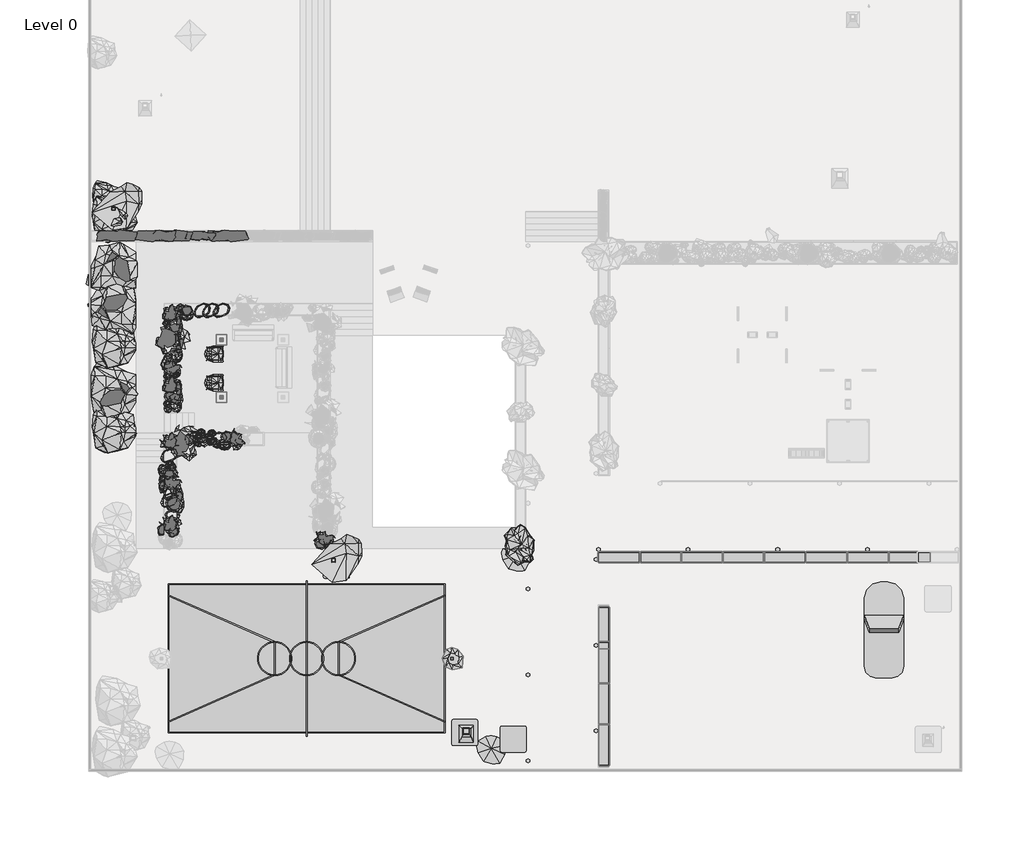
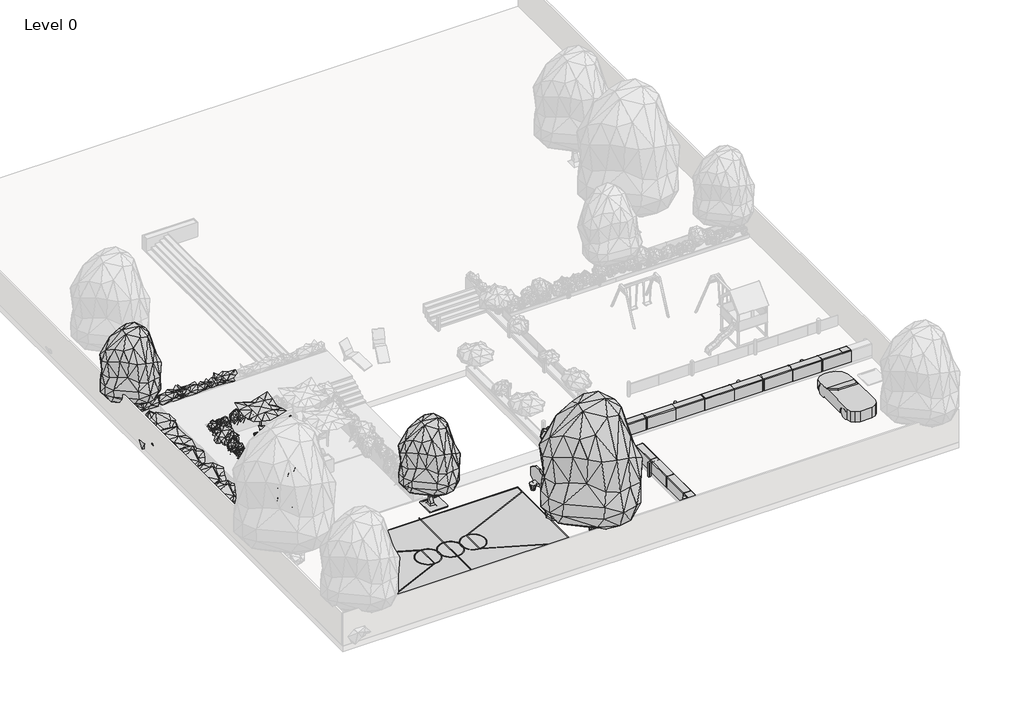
# One storey, part 2 of 4: 115 geographic elements.
"""IFC4 building model written with IfcOpenShell, lengths in millimetres."""

from ifc_helpers import new_model, si_unit, origin, place, context, project, spatial, transform, mapped, element, save
from components import geographic_element_18a1116b, geographic_element_f069a1d7, geographic_element_9647795e, geographic_element_b0e9a4e7, geographic_element_ddb3373a, geographic_element_6e40b6ea, geographic_element_a5b1a6e7, geographic_element_4fbb4c08, geographic_element_7a93afb1, geographic_element_6c98dd67, geographic_element_ee225f17, geographic_element_5fc5a5dc, geographic_element_9e3005e0, geographic_element_3e6169c2, geographic_element_002eea6f, geographic_element_27884fb9, geographic_element_71cebea8, geographic_element_228c287f, geographic_element_fedf1de8, geographic_element_c9fdac9c, geographic_element_cc1a56ab, geographic_element_63926694, geographic_element_56f19f58, geographic_element_ddda1ed9, geographic_element_a5f2ebed, basketball_m_26000_x_14000_mm_2_9674ccca, enscape_assetdefinition_armchair_052_outdoor_enscape_f294b56b, enscape_assetdefinition_basketball_hoop_001_enscape_23c26aad, enscape_assetdefinition_bush_025_fern_enscape_ed9dc602, enscape_assetdefinition_bush_025_fern_enscape_5cccd865, enscape_assetdefinition_bush_025_fern_enscape_c4f5b710, enscape_assetdefinition_bush_030_grass_enscape_cd22858d, enscape_assetdefinition_bush_031_grass_enscape_dda4791a, enscape_assetdefinition_car_016_enscape_assetdefinition_car_c40bcaf4

model = new_model("IFC4")

# Units and contexts
model_context = context("Model", 3, world=origin())
ifc_project = project(units=[si_unit("LENGTHUNIT", "METRE", prefix="MILLI")], contexts=[model_context])

# Site, building, storey
site = spatial("IfcSite", under=ifc_project)
building = spatial("IfcBuilding", under=site)
storey = spatial("IfcBuildingStorey", under=building, Name="Level 0", Elevation=0.0)

# Geographic elements
placement = place(None, origin())
geographic_element_shape = geographic_element_18a1116b(model_context)
element("IfcGeographicElement", 1, ObjectType="Enscape AssetDefinition - Sunshade 002 : Enscape AssetDefinition - Sunshade 002", at=placement, inside=storey, context=model_context, shape_type="MappedRepresentation", body=[
    mapped(geographic_element_shape, transform((-957.3193728, -6858.2564752, 100.0), x_axis=(1.0, 0.0, 0.0), y_axis=(0.0, 1.0, 0.0), z_axis=(0.0, 0.0, 1.0))),
])
element("IfcGeographicElement", 2, ObjectType="Enscape AssetDefinition - Sunshade 002 : Enscape AssetDefinition - Sunshade 002", at=placement, inside=storey, context=model_context, shape_type="MappedRepresentation", body=[
    mapped(geographic_element_shape, transform((-957.3193728, -9558.2564752, 100.0), x_axis=(1.0, 0.0, 0.0), y_axis=(0.0, 1.0, 0.0), z_axis=(0.0, 0.0, 1.0))),
])
geographic_element_2_shape = geographic_element_f069a1d7(model_context)
element("IfcGeographicElement", 3, ObjectType="Enscape AssetDefinition - Creeper Plant 016 Bower Vine : Enscape AssetDefinition - Creeper Plant 016 Bower Vine", at=placement, inside=storey, context=model_context, shape_type="MappedRepresentation", body=[
    mapped(geographic_element_2_shape, transform((-3106.8662216, -9938.4130328, 950.0), x_axis=(0.0, 1.0, 0.0), y_axis=(-1.0, 0.0, 0.0), z_axis=(0.0, 0.0, 1.0))),
])
element("IfcGeographicElement", 4, ObjectType="Enscape AssetDefinition - Creeper Plant 016 Bower Vine : Enscape AssetDefinition - Creeper Plant 016 Bower Vine", at=placement, inside=storey, context=model_context, shape_type="MappedRepresentation", body=[
    mapped(geographic_element_2_shape, transform((-3656.8662216, -13041.7630328, 950.0), x_axis=(0.0, -1.0, 0.0), y_axis=(1.0, 0.0, 0.0), z_axis=(0.0, 0.0, 1.0))),
])
geographic_element_3_shape = geographic_element_9647795e(model_context)
element("IfcGeographicElement", 5, ObjectType="Enscape AssetDefinition - Creeper Plant 001 Bower Vine : Enscape AssetDefinition - Creeper Plant 001 Bower Vine", at=placement, inside=storey, context=model_context, shape_type="MappedRepresentation", body=[
    mapped(geographic_element_3_shape, transform((-3606.8662216, -13460.9795349, 950.0), x_axis=(0.0, -1.0, 0.0), y_axis=(1.0, 0.0, 0.0), z_axis=(0.0, 0.0, 1.0))),
])
element("IfcGeographicElement", 6, ObjectType="Enscape AssetDefinition - Creeper Plant 001 Bower Vine : Enscape AssetDefinition - Creeper Plant 001 Bower Vine", at=placement, inside=storey, context=model_context, shape_type="MappedRepresentation", body=[
    mapped(geographic_element_3_shape, transform((-3106.8662216, -6858.2564752, 950.0), x_axis=(0.0, 1.0, 0.0), y_axis=(-1.0, 0.0, 0.0), z_axis=(0.0, 0.0, 1.0))),
])
geographic_element_4_shape = geographic_element_b0e9a4e7(model_context)
element("IfcGeographicElement", 7, ObjectType="Enscape AssetDefinition - Creeper Plant 016 Bower Vine : Enscape AssetDefinition - Creeper Plant 016 Bower Vine 2", at=placement, inside=storey, context=model_context, shape_type="MappedRepresentation", body=[
    mapped(geographic_element_4_shape, transform((-3106.8662216, -14538.4130328, 950.0), x_axis=(0.0, 1.0, 0.0), y_axis=(-1.0, 0.0, 0.0), z_axis=(0.0, 0.0, 1.0))),
])
geographic_element_5_shape = geographic_element_ddb3373a(model_context)
element("IfcGeographicElement", 8, ObjectType="Enscape AssetDefinition - Creeper Plant 016 Bower Vine : Enscape AssetDefinition - Creeper Plant 016 Bower Vine 3", at=placement, inside=storey, context=model_context, shape_type="MappedRepresentation", body=[
    mapped(geographic_element_5_shape, transform((-3106.8662216, -6258.2564752, 950.0), x_axis=(0.0, 1.0, 0.0), y_axis=(-1.0, 0.0, 0.0), z_axis=(0.0, 0.0, 1.0))),
])
element("IfcGeographicElement", 9, ObjectType="Enscape AssetDefinition - Creeper Plant 016 Bower Vine : Enscape AssetDefinition - Creeper Plant 016 Bower Vine 3", at=placement, inside=storey, context=model_context, shape_type="MappedRepresentation", body=[
    mapped(geographic_element_5_shape, transform((-3106.8662216, -9558.2564752, 950.0), x_axis=(0.0, 1.0, 0.0), y_axis=(-1.0, 0.0, 0.0), z_axis=(0.0, 0.0, 1.0))),
])
geographic_element_6_shape = geographic_element_6e40b6ea(model_context)
element("IfcGeographicElement", 10, ObjectType="Enscape AssetDefinition - Creeper Plant 028 Ivy : Enscape AssetDefinition - Creeper Plant 028 Ivy", at=placement, inside=storey, context=model_context, shape_type="MappedRepresentation", body=[
    mapped(geographic_element_6_shape, transform((-3074.0130704, -9229.0692313, 950.0), x_axis=(0.0, 1.0, 0.0), y_axis=(-1.0, 0.0, 0.0), z_axis=(0.0, 0.0, 1.0))),
])
element("IfcGeographicElement", 11, ObjectType="Enscape AssetDefinition - Creeper Plant 028 Ivy : Enscape AssetDefinition - Creeper Plant 028 Ivy", at=placement, inside=storey, context=model_context, shape_type="MappedRepresentation", body=[
    mapped(geographic_element_6_shape, transform((-3074.0130704, -9029.0692313, 950.0), x_axis=(0.0, 1.0, 0.0), y_axis=(-1.0, 0.0, 0.0), z_axis=(0.0, 0.0, 1.0))),
])
element("IfcGeographicElement", 12, ObjectType="Enscape AssetDefinition - Creeper Plant 028 Ivy : Enscape AssetDefinition - Creeper Plant 028 Ivy", at=placement, inside=storey, context=model_context, shape_type="MappedRepresentation", body=[
    mapped(geographic_element_6_shape, transform((-3074.0130704, -7229.0692313, 950.0), x_axis=(0.0, 1.0, 0.0), y_axis=(-1.0, 0.0, 0.0), z_axis=(0.0, 0.0, 1.0))),
])
element("IfcGeographicElement", 13, ObjectType="Enscape AssetDefinition - Creeper Plant 028 Ivy : Enscape AssetDefinition - Creeper Plant 028 Ivy", at=placement, inside=storey, context=model_context, shape_type="MappedRepresentation", body=[
    mapped(geographic_element_6_shape, transform((-3074.0130704, -5929.0692313, 950.0), x_axis=(0.0, 1.0, 0.0), y_axis=(-1.0, 0.0, 0.0), z_axis=(0.0, 0.0, 1.0))),
])
element("IfcGeographicElement", 14, ObjectType="Enscape AssetDefinition - Creeper Plant 028 Ivy : Enscape AssetDefinition - Creeper Plant 028 Ivy", at=placement, inside=storey, context=model_context, shape_type="MappedRepresentation", body=[
    mapped(geographic_element_6_shape, transform((-3637.1215765, -13764.1068387, 950.0), x_axis=(0.0, -1.0, 0.0), y_axis=(1.0, 0.0, 0.0), z_axis=(0.0, 0.0, 1.0))),
])
geographic_element_7_shape = geographic_element_a5b1a6e7(model_context)
element("IfcGeographicElement", 15, ObjectType="Enscape AssetDefinition - Creeper Plant 028 Ivy : Enscape AssetDefinition - Creeper Plant 028 Ivy 2", at=placement, inside=storey, context=model_context, shape_type="MappedRepresentation", body=[
    mapped(geographic_element_7_shape, transform((-3074.0130704, -14140.1703418, 950.0), x_axis=(0.0, 1.0, 0.0), y_axis=(-1.0, 0.0, 0.0), z_axis=(0.0, 0.0, 1.0))),
])
element("IfcGeographicElement", 16, ObjectType="Enscape AssetDefinition - Creeper Plant 028 Ivy : Enscape AssetDefinition - Creeper Plant 028 Ivy 2", at=placement, inside=storey, context=model_context, shape_type="MappedRepresentation", body=[
    mapped(geographic_element_7_shape, transform((-3634.7986188, -15863.451822, 950.0), x_axis=(0.0, -1.0, 0.0), y_axis=(1.0, 0.0, 0.0), z_axis=(0.0, 0.0, 1.0))),
])
geographic_element_8_shape = geographic_element_4fbb4c08(model_context)
element("IfcGeographicElement", 17, ObjectType="Enscape AssetDefinition - Potted Plant 230 Grapevines : Enscape AssetDefinition - Potted Plant 230 Grapevines 2", at=placement, inside=storey, context=model_context, shape_type="MappedRepresentation", body=[
    mapped(geographic_element_8_shape, transform((-3356.8662216, -15521.7630328, 950.0), x_axis=(1.0, 0.0, 0.0), y_axis=(0.0, 1.0, 0.0), z_axis=(0.0, 0.0, 1.0))),
])
element("IfcGeographicElement", 18, ObjectType="Enscape AssetDefinition - Potted Plant 230 Grapevines : Enscape AssetDefinition - Potted Plant 230 Grapevines 2", at=placement, inside=storey, context=model_context, shape_type="MappedRepresentation", body=[
    mapped(geographic_element_8_shape, transform((-3356.8662216, -11621.7630328, 950.0), x_axis=(1.0, 0.0, 0.0), y_axis=(0.0, 1.0, 0.0), z_axis=(0.0, 0.0, 1.0))),
])
element("IfcGeographicElement", 19, ObjectType="Enscape AssetDefinition - Potted Plant 230 Grapevines : Enscape AssetDefinition - Potted Plant 230 Grapevines 2", at=placement, inside=storey, context=model_context, shape_type="MappedRepresentation", body=[
    mapped(geographic_element_8_shape, transform((-3356.8662216, -5621.7630328, 950.0), x_axis=(1.0, 0.0, 0.0), y_axis=(0.0, 1.0, 0.0), z_axis=(0.0, 0.0, 1.0))),
])
element("IfcGeographicElement", 20, ObjectType="Enscape AssetDefinition - Potted Plant 230 Grapevines : Enscape AssetDefinition - Potted Plant 230 Grapevines 2", at=placement, inside=storey, context=model_context, shape_type="MappedRepresentation", body=[
    mapped(geographic_element_8_shape, transform((-3356.8662216, -9001.7630328, 950.0), x_axis=(1.0, 0.0, 0.0), y_axis=(0.0, 1.0, 0.0), z_axis=(0.0, 0.0, 1.0))),
])
element("IfcGeographicElement", 21, ObjectType="Enscape AssetDefinition - Potted Plant 230 Grapevines : Enscape AssetDefinition - Potted Plant 230 Grapevines 2", at=placement, inside=storey, context=model_context, shape_type="MappedRepresentation", body=[
    mapped(geographic_element_8_shape, transform((3911.3774567, -16189.5281561, 950.0), x_axis=(0.4163584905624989, -0.9092005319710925, 0.0), y_axis=(0.9092005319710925, 0.4163584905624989, 0.0), z_axis=(0.0, 0.0, 1.0))),
])
element("IfcGeographicElement", 22, ObjectType="Enscape AssetDefinition - Potted Plant 230 Grapevines : Enscape AssetDefinition - Potted Plant 230 Grapevines 2", at=placement, inside=storey, context=model_context, shape_type="MappedRepresentation", body=[
    mapped(geographic_element_8_shape, transform((-3286.4186182, -8174.9744493, 950.0), x_axis=(0.4163584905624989, -0.9092005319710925, 0.0), y_axis=(0.9092005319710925, 0.4163584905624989, 0.0), z_axis=(0.0, 0.0, 1.0))),
])
element("IfcGeographicElement", 23, ObjectType="Enscape AssetDefinition - Potted Plant 230 Grapevines : Enscape AssetDefinition - Potted Plant 230 Grapevines 2", at=placement, inside=storey, context=model_context, shape_type="MappedRepresentation", body=[
    mapped(geographic_element_8_shape, transform((-3286.4186182, -13574.9744493, 950.0), x_axis=(0.4163584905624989, -0.9092005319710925, 0.0), y_axis=(0.9092005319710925, 0.4163584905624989, 0.0), z_axis=(0.0, 0.0, 1.0))),
])
element("IfcGeographicElement", 24, ObjectType="Enscape AssetDefinition - Potted Plant 230 Grapevines : Enscape AssetDefinition - Potted Plant 230 Grapevines 2", at=placement, inside=storey, context=model_context, shape_type="MappedRepresentation", body=[
    mapped(geographic_element_8_shape, transform((-243.6612162, -11524.7741697, 950.0), x_axis=(-0.28225947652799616, -0.9593380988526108, 0.0), y_axis=(0.9593380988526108, -0.28225947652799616, 0.0), z_axis=(0.0, 0.0, 1.0))),
])
geographic_element_9_shape = geographic_element_7a93afb1(model_context)
element("IfcGeographicElement", 25, ObjectType="Enscape AssetDefinition - Potted Plant 230 Grapevines : Enscape AssetDefinition - Potted Plant 230 Grapevines 3", at=placement, inside=storey, context=model_context, shape_type="MappedRepresentation", body=[
    mapped(geographic_element_9_shape, transform((-3335.4863265, -6791.3206124, 950.0), x_axis=(0.9876883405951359, -0.15643446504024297, 0.0), y_axis=(0.15643446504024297, 0.9876883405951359, 0.0), z_axis=(0.0, 0.0, 1.0))),
])
element("IfcGeographicElement", 26, ObjectType="Enscape AssetDefinition - Potted Plant 230 Grapevines : Enscape AssetDefinition - Potted Plant 230 Grapevines 3", at=placement, inside=storey, context=model_context, shape_type="MappedRepresentation", body=[
    mapped(geographic_element_9_shape, transform((-2791.4894397, -11667.4443336, 950.0), x_axis=(0.8290375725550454, 0.5591929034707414, 0.0), y_axis=(-0.5591929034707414, 0.8290375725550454, 0.0), z_axis=(0.0, 0.0, 1.0))),
])
geographic_element_10_shape = geographic_element_6c98dd67(model_context)
element("IfcGeographicElement", 27, ObjectType="Enscape AssetDefinition - Flower 086 Cross-leaved Heath : Enscape AssetDefinition - Flower 086 Cross-leaved Heath", at=placement, inside=storey, context=model_context, shape_type="MappedRepresentation", body=[
    mapped(geographic_element_10_shape, transform((-3281.9578299, -12828.4233349, 950.0), x_axis=(1.0, 0.0, 0.0), y_axis=(0.0, 1.0, 0.0), z_axis=(0.0, 0.0, 1.0))),
])
element("IfcGeographicElement", 28, ObjectType="Enscape AssetDefinition - Flower 086 Cross-leaved Heath : Enscape AssetDefinition - Flower 086 Cross-leaved Heath", at=placement, inside=storey, context=model_context, shape_type="MappedRepresentation", body=[
    mapped(geographic_element_10_shape, transform((-2880.3528765, -5354.6036783, 950.0), x_axis=(1.0, 0.0, 0.0), y_axis=(0.0, 1.0, 0.0), z_axis=(0.0, 0.0, 1.0))),
])
element("IfcGeographicElement", 29, ObjectType="Enscape AssetDefinition - Flower 086 Cross-leaved Heath : Enscape AssetDefinition - Flower 086 Cross-leaved Heath", at=placement, inside=storey, context=model_context, shape_type="MappedRepresentation", body=[
    mapped(geographic_element_10_shape, transform((-3460.9654259, -7683.3134214, 950.0), x_axis=(1.0, 0.0, 0.0), y_axis=(0.0, 1.0, 0.0), z_axis=(0.0, 0.0, 1.0))),
])
element("IfcGeographicElement", 30, ObjectType="Enscape AssetDefinition - Flower 086 Cross-leaved Heath : Enscape AssetDefinition - Flower 086 Cross-leaved Heath", at=placement, inside=storey, context=model_context, shape_type="MappedRepresentation", body=[
    mapped(geographic_element_10_shape, transform((-3460.9654259, -10083.3134214, 950.0), x_axis=(1.0, 0.0, 0.0), y_axis=(0.0, 1.0, 0.0), z_axis=(0.0, 0.0, 1.0))),
])
element("IfcGeographicElement", 31, ObjectType="Enscape AssetDefinition - Flower 086 Cross-leaved Heath : Enscape AssetDefinition - Flower 086 Cross-leaved Heath", at=placement, inside=storey, context=model_context, shape_type="MappedRepresentation", body=[
    mapped(geographic_element_10_shape, transform((-1787.6328611, -11529.4264575, 950.0), x_axis=(1.0, 0.0, 0.0), y_axis=(0.0, 1.0, 0.0), z_axis=(0.0, 0.0, 1.0))),
])
element("IfcGeographicElement", 32, ObjectType="Enscape AssetDefinition - Flower 086 Cross-leaved Heath : Enscape AssetDefinition - Flower 086 Cross-leaved Heath", at=placement, inside=storey, context=model_context, shape_type="MappedRepresentation", body=[
    mapped(geographic_element_10_shape, transform((-1352.1333001, -11606.2167802, 950.0), x_axis=(1.0, 0.0, 0.0), y_axis=(0.0, 1.0, 0.0), z_axis=(0.0, 0.0, 1.0))),
])
geographic_element_11_shape = geographic_element_ee225f17(model_context)
element("IfcGeographicElement", 33, ObjectType="Enscape AssetDefinition - Flower 086 Cross-leaved Heath : Enscape AssetDefinition - Flower 086 Cross-leaved Heath 2", at=placement, inside=storey, context=model_context, shape_type="MappedRepresentation", body=[
    mapped(geographic_element_11_shape, transform((3715.8247666, -16444.3432108, 950.0), x_axis=(-1.0, 0.0, 0.0), y_axis=(0.0, -1.0, 0.0), z_axis=(0.0, 0.0, 1.0))),
])
element("IfcGeographicElement", 34, ObjectType="Enscape AssetDefinition - Flower 086 Cross-leaved Heath : Enscape AssetDefinition - Flower 086 Cross-leaved Heath 2", at=placement, inside=storey, context=model_context, shape_type="MappedRepresentation", body=[
    mapped(geographic_element_11_shape, transform((-711.7694832, -11412.3751438, 950.0), x_axis=(1.0, 0.0, 0.0), y_axis=(0.0, 1.0, 0.0), z_axis=(0.0, 0.0, 1.0))),
])
element("IfcGeographicElement", 35, ObjectType="Enscape AssetDefinition - Flower 086 Cross-leaved Heath : Enscape AssetDefinition - Flower 086 Cross-leaved Heath 2", at=placement, inside=storey, context=model_context, shape_type="MappedRepresentation", body=[
    mapped(geographic_element_11_shape, transform((-2474.4662216, -11538.2987165, 950.0), x_axis=(1.0, 0.0, 0.0), y_axis=(0.0, 1.0, 0.0), z_axis=(0.0, 0.0, 1.0))),
])
element("IfcGeographicElement", 36, ObjectType="Enscape AssetDefinition - Flower 086 Cross-leaved Heath : Enscape AssetDefinition - Flower 086 Cross-leaved Heath 2", at=placement, inside=storey, context=model_context, shape_type="MappedRepresentation", body=[
    mapped(geographic_element_11_shape, transform((-3424.4662216, -13183.7469837, 950.0), x_axis=(1.0, 0.0, 0.0), y_axis=(0.0, 1.0, 0.0), z_axis=(0.0, 0.0, 1.0))),
])
element("IfcGeographicElement", 37, ObjectType="Enscape AssetDefinition - Flower 086 Cross-leaved Heath : Enscape AssetDefinition - Flower 086 Cross-leaved Heath 2", at=placement, inside=storey, context=model_context, shape_type="MappedRepresentation", body=[
    mapped(geographic_element_11_shape, transform((-3236.1237425, -15877.1699194, 950.0), x_axis=(1.0, 0.0, 0.0), y_axis=(0.0, 1.0, 0.0), z_axis=(0.0, 0.0, 1.0))),
])
element("IfcGeographicElement", 38, ObjectType="Enscape AssetDefinition - Flower 086 Cross-leaved Heath : Enscape AssetDefinition - Flower 086 Cross-leaved Heath 2", at=placement, inside=storey, context=model_context, shape_type="MappedRepresentation", body=[
    mapped(geographic_element_11_shape, transform((-2588.0440244, -5492.528017, 950.0), x_axis=(1.0, 0.0, 0.0), y_axis=(0.0, 1.0, 0.0), z_axis=(0.0, 0.0, 1.0))),
])
element("IfcGeographicElement", 39, ObjectType="Enscape AssetDefinition - Flower 086 Cross-leaved Heath : Enscape AssetDefinition - Flower 086 Cross-leaved Heath 2", at=placement, inside=storey, context=model_context, shape_type="MappedRepresentation", body=[
    mapped(geographic_element_11_shape, transform((-3362.7645716, -9520.061956, 950.0), x_axis=(1.0, 0.0, 0.0), y_axis=(0.0, 1.0, 0.0), z_axis=(0.0, 0.0, 1.0))),
])
element("IfcGeographicElement", 40, ObjectType="Enscape AssetDefinition - Creeper Plant 015 Bower Vine : Enscape AssetDefinition - Creeper Plant 015 Bower Vine", at=placement, inside=storey, context=model_context, shape_type="MappedRepresentation", body=[
    mapped(geographic_element_3_shape, transform((-3056.8662216, -7575.3414027, 950.0), x_axis=(0.0, 1.0, 0.0), y_axis=(-1.0, 0.0, 0.0), z_axis=(0.0, 0.0, 1.0))),
])
element("IfcGeographicElement", 41, ObjectType="Enscape AssetDefinition - Creeper Plant 015 Bower Vine : Enscape AssetDefinition - Creeper Plant 015 Bower Vine", at=placement, inside=storey, context=model_context, shape_type="MappedRepresentation", body=[
    mapped(geographic_element_3_shape, transform((-2582.1456744, -5678.2564752, 950.0), x_axis=(1.0, 0.0, 0.0), y_axis=(0.0, 1.0, 0.0), z_axis=(0.0, 0.0, 1.0))),
])
element("IfcGeographicElement", 42, ObjectType="Enscape AssetDefinition - Creeper Plant 015 Bower Vine : Enscape AssetDefinition - Creeper Plant 015 Bower Vine", at=placement, inside=storey, context=model_context, shape_type="MappedRepresentation", body=[
    mapped(geographic_element_3_shape, transform((-807.0716419, -11768.4130328, 950.0), x_axis=(1.0, 0.0, 0.0), y_axis=(0.0, 1.0, 0.0), z_axis=(0.0, 0.0, 1.0))),
])
geographic_element_12_shape = geographic_element_5fc5a5dc(model_context)
element("IfcGeographicElement", 43, ObjectType="Enscape AssetDefinition - Creeper Plant 015 Bower Vine : Enscape AssetDefinition - Creeper Plant 015 Bower Vine 3", at=placement, inside=storey, context=model_context, shape_type="MappedRepresentation", body=[
    mapped(geographic_element_12_shape, transform((-1914.4662216, -11218.4130328, 950.0), x_axis=(-1.0, 0.0, 0.0), y_axis=(0.0, -1.0, 0.0), z_axis=(0.0, 0.0, 1.0))),
])
element("IfcGeographicElement", 44, ObjectType="Enscape AssetDefinition - Creeper Plant 015 Bower Vine : Enscape AssetDefinition - Creeper Plant 015 Bower Vine 3", at=placement, inside=storey, context=model_context, shape_type="MappedRepresentation", body=[
    mapped(geographic_element_12_shape, transform((-1421.1738594, -11252.907395, 950.0), x_axis=(-1.0, 0.0, 0.0), y_axis=(0.0, -1.0, 0.0), z_axis=(0.0, 0.0, 1.0))),
])
element("IfcGeographicElement", 45, ObjectType="Enscape AssetDefinition - Creeper Plant 015 Bower Vine : Enscape AssetDefinition - Creeper Plant 015 Bower Vine 3", at=placement, inside=storey, context=model_context, shape_type="MappedRepresentation", body=[
    mapped(geographic_element_12_shape, transform((-1147.0716419, -11768.4130328, 950.0), x_axis=(1.0, 0.0, 0.0), y_axis=(0.0, 1.0, 0.0), z_axis=(0.0, 0.0, 1.0))),
])
geographic_element_13_shape = geographic_element_9e3005e0(model_context)
element("IfcGeographicElement", 46, ObjectType="Enscape AssetDefinition - Potted Plant 250 Snake Plant : Enscape AssetDefinition - Potted Plant 250 Snake Plant", at=placement, inside=storey, context=model_context, shape_type="MappedRepresentation", body=[
    mapped(geographic_element_13_shape, transform((-1956.8662216, -1973.0793342, 950.0), x_axis=(0.0, -1.0, 0.0), y_axis=(1.0, 0.0, 0.0), z_axis=(0.0, 0.0, 1.0))),
])
geographic_element_14_shape = geographic_element_3e6169c2(model_context)
element("IfcGeographicElement", 47, ObjectType="Enscape AssetDefinition - Hedge 014 Modular : Enscape AssetDefinition - Hedge 014 Modular", at=placement, inside=storey, context=model_context, shape_type="MappedRepresentation", body=[
    mapped(geographic_element_14_shape, transform((17717.3510559, -17059.8480259, 220.0), x_axis=(1.0, 0.0, 0.0), y_axis=(0.0, 1.0, 0.0), z_axis=(0.0, 0.0, 1.0))),
])
element("IfcGeographicElement", 48, ObjectType="Enscape AssetDefinition - Hedge 014 Modular : Enscape AssetDefinition - Hedge 014 Modular", at=placement, inside=storey, context=model_context, shape_type="MappedRepresentation", body=[
    mapped(geographic_element_14_shape, transform((19677.3510559, -17059.8480259, 220.0), x_axis=(1.0, 0.0, 0.0), y_axis=(0.0, 1.0, 0.0), z_axis=(0.0, 0.0, 1.0))),
])
element("IfcGeographicElement", 49, ObjectType="Enscape AssetDefinition - Hedge 014 Modular : Enscape AssetDefinition - Hedge 014 Modular", at=placement, inside=storey, context=model_context, shape_type="MappedRepresentation", body=[
    mapped(geographic_element_14_shape, transform((21617.3510559, -17059.8480259, 220.0), x_axis=(1.0, 0.0, 0.0), y_axis=(0.0, 1.0, 0.0), z_axis=(0.0, 0.0, 1.0))),
])
element("IfcGeographicElement", 50, ObjectType="Enscape AssetDefinition - Hedge 014 Modular : Enscape AssetDefinition - Hedge 014 Modular", at=placement, inside=storey, context=model_context, shape_type="MappedRepresentation", body=[
    mapped(geographic_element_14_shape, transform((23557.3510559, -17059.8480259, 220.0), x_axis=(1.0, 0.0, 0.0), y_axis=(0.0, 1.0, 0.0), z_axis=(0.0, 0.0, 1.0))),
])
element("IfcGeographicElement", 51, ObjectType="Enscape AssetDefinition - Hedge 014 Modular : Enscape AssetDefinition - Hedge 014 Modular", at=placement, inside=storey, context=model_context, shape_type="MappedRepresentation", body=[
    mapped(geographic_element_14_shape, transform((25477.3510559, -17059.8480259, 220.0), x_axis=(1.0, 0.0, 0.0), y_axis=(0.0, 1.0, 0.0), z_axis=(0.0, 0.0, 1.0))),
])
element("IfcGeographicElement", 52, ObjectType="Enscape AssetDefinition - Hedge 014 Modular : Enscape AssetDefinition - Hedge 014 Modular", at=placement, inside=storey, context=model_context, shape_type="MappedRepresentation", body=[
    mapped(geographic_element_14_shape, transform((27466.1683235, -17059.8480259, 220.0), x_axis=(1.0, 0.0, 0.0), y_axis=(0.0, 1.0, 0.0), z_axis=(0.0, 0.0, 1.0))),
])
element("IfcGeographicElement", 53, ObjectType="Enscape AssetDefinition - Hedge 014 Modular : Enscape AssetDefinition - Hedge 014 Modular", at=placement, inside=storey, context=model_context, shape_type="MappedRepresentation", body=[
    mapped(geographic_element_14_shape, transform((29406.1683235, -17059.8480259, 220.0), x_axis=(1.0, 0.0, 0.0), y_axis=(0.0, 1.0, 0.0), z_axis=(0.0, 0.0, 1.0))),
])
element("IfcGeographicElement", 54, ObjectType="Enscape AssetDefinition - Hedge 014 Modular : Enscape AssetDefinition - Hedge 014 Modular", at=placement, inside=storey, context=model_context, shape_type="MappedRepresentation", body=[
    mapped(geographic_element_14_shape, transform((31346.1683235, -17059.8480259, 220.0), x_axis=(1.0, 0.0, 0.0), y_axis=(0.0, 1.0, 0.0), z_axis=(0.0, 0.0, 1.0))),
])
element("IfcGeographicElement", 55, ObjectType="Enscape AssetDefinition - Hedge 014 Modular : Enscape AssetDefinition - Hedge 014 Modular", at=placement, inside=storey, context=model_context, shape_type="MappedRepresentation", body=[
    mapped(geographic_element_14_shape, transform((17022.4548215, -20376.2597988, 220.0), x_axis=(0.0, -1.0, 0.0), y_axis=(1.0, 0.0, 0.0), z_axis=(0.0, 0.0, 1.0))),
])
element("IfcGeographicElement", 56, ObjectType="Enscape AssetDefinition - Hedge 014 Modular : Enscape AssetDefinition - Hedge 014 Modular", at=placement, inside=storey, context=model_context, shape_type="MappedRepresentation", body=[
    mapped(geographic_element_14_shape, transform((17022.4548215, -22020.3054109, 220.0), x_axis=(0.0, -1.0, 0.0), y_axis=(1.0, 0.0, 0.0), z_axis=(0.0, 0.0, 1.0))),
])
element("IfcGeographicElement", 57, ObjectType="Enscape AssetDefinition - Hedge 014 Modular : Enscape AssetDefinition - Hedge 014 Modular", at=placement, inside=storey, context=model_context, shape_type="MappedRepresentation", body=[
    mapped(geographic_element_14_shape, transform((17022.4548215, -23960.3054109, 220.0), x_axis=(0.0, -1.0, 0.0), y_axis=(1.0, 0.0, 0.0), z_axis=(0.0, 0.0, 1.0))),
])
element("IfcGeographicElement", 58, ObjectType="Enscape AssetDefinition - Hedge 014 Modular : Enscape AssetDefinition - Hedge 014 Modular", at=placement, inside=storey, context=model_context, shape_type="MappedRepresentation", body=[
    mapped(geographic_element_14_shape, transform((17022.4548215, -25900.3054109, 220.0), x_axis=(0.0, -1.0, 0.0), y_axis=(1.0, 0.0, 0.0), z_axis=(0.0, 0.0, 1.0))),
])
geographic_element_15_shape = geographic_element_002eea6f(model_context)
element("IfcGeographicElement", 59, ObjectType="Enscape AssetDefinition - Evergreen Tree 022 Ficus : Enscape AssetDefinition - Evergreen Tree 022 Ficus", at=placement, inside=storey, context=model_context, shape_type="MappedRepresentation", body=[
    mapped(geographic_element_15_shape, transform((13042.6806272, -16438.2564752, 220.0), x_axis=(1.0, 0.0, 0.0), y_axis=(0.0, 1.0, 0.0), z_axis=(0.0, 0.0, 1.0))),
])
geographic_element_16_shape = geographic_element_27884fb9(model_context)
element("IfcGeographicElement", 60, ObjectType="Enscape AssetDefinition - Evergreen Tree 066 Lophostemon : Enscape AssetDefinition - Evergreen Tree 066 Lophostemon 2", at=placement, inside=storey, context=model_context, shape_type="MappedRepresentation", body=[
    mapped(geographic_element_16_shape, transform((-5974.2859569, -760.255811, 0.0), x_axis=(1.0, 0.0, 0.0), y_axis=(0.0, 1.0, 0.0), z_axis=(0.0, 0.0, 1.0))),
])
element("IfcGeographicElement", 61, ObjectType="Enscape AssetDefinition - Evergreen Tree 066 Lophostemon : Enscape AssetDefinition - Evergreen Tree 066 Lophostemon 2", at=placement, inside=storey, context=model_context, shape_type="MappedRepresentation", body=[
    mapped(geographic_element_16_shape, transform((4345.5337784, -17301.7630328, 0.0), x_axis=(1.0, 0.0, 0.0), y_axis=(0.0, 1.0, 0.0), z_axis=(0.0, 0.0, 1.0))),
])
geographic_element_17_shape = geographic_element_71cebea8(model_context)
element("IfcGeographicElement", 62, ObjectType="Enscape AssetDefinition - Bush 012 English Laurel : Enscape AssetDefinition - Bush 012 English Laurel", at=placement, inside=storey, context=model_context, shape_type="MappedRepresentation", body=[
    mapped(geographic_element_17_shape, transform((-6010.1328373, -10985.7472574, 0.0), x_axis=(-0.7796599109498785, 0.626203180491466, 0.0), y_axis=(-0.626203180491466, -0.7796599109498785, 0.0), z_axis=(0.0, 0.0, 1.0))),
])
element("IfcGeographicElement", 63, ObjectType="Enscape AssetDefinition - Bush 012 English Laurel : Enscape AssetDefinition - Bush 012 English Laurel", at=placement, inside=storey, context=model_context, shape_type="MappedRepresentation", body=[
    mapped(geographic_element_17_shape, transform((-6010.1328373, -6985.7472574, 0.0), x_axis=(-0.7796599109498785, 0.626203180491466, 0.0), y_axis=(-0.626203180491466, -0.7796599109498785, 0.0), z_axis=(0.0, 0.0, 1.0))),
])
element("IfcGeographicElement", 64, ObjectType="Enscape AssetDefinition - Bush 012 English Laurel : Enscape AssetDefinition - Bush 012 English Laurel", at=placement, inside=storey, context=model_context, shape_type="MappedRepresentation", body=[
    mapped(geographic_element_17_shape, transform((-6010.1328373, -1085.7472574, 0.0), x_axis=(-0.7796599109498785, 0.626203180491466, 0.0), y_axis=(-0.626203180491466, -0.7796599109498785, 0.0), z_axis=(0.0, 0.0, 1.0))),
])
geographic_element_18_shape = geographic_element_228c287f(model_context)
element("IfcGeographicElement", 65, ObjectType="Enscape AssetDefinition - Bush 012 English Laurel : Enscape AssetDefinition - Bush 012 English Laurel 2", at=placement, inside=storey, context=model_context, shape_type="MappedRepresentation", body=[
    mapped(geographic_element_18_shape, transform((-6347.4668625, -131.9497323, 0.0), x_axis=(-0.7796599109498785, 0.626203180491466, 0.0), y_axis=(-0.626203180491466, -0.7796599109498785, 0.0), z_axis=(0.0, 0.0, 1.0))),
])
geographic_element_19_shape = geographic_element_fedf1de8(model_context)
element("IfcGeographicElement", 66, ObjectType="Enscape AssetDefinition - Bush 012 English Laurel : Enscape AssetDefinition - Bush 012 English Laurel 3", at=placement, inside=storey, context=model_context, shape_type="MappedRepresentation", body=[
    mapped(geographic_element_19_shape, transform((-6010.1328373, -9185.7472574, 0.0), x_axis=(-0.7796599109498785, 0.626203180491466, 0.0), y_axis=(-0.626203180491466, -0.7796599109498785, 0.0), z_axis=(0.0, 0.0, 1.0))),
])
element("IfcGeographicElement", 67, ObjectType="Enscape AssetDefinition - Bush 012 English Laurel : Enscape AssetDefinition - Bush 012 English Laurel 3", at=placement, inside=storey, context=model_context, shape_type="MappedRepresentation", body=[
    mapped(geographic_element_19_shape, transform((-6010.1328373, -5485.7472574, 0.0), x_axis=(0.7796599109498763, -0.6262031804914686, 0.0), y_axis=(0.6262031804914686, 0.7796599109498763, 0.0), z_axis=(0.0, 0.0, 1.0))),
])
element("IfcGeographicElement", 68, ObjectType="Enscape AssetDefinition - Bush 012 English Laurel : Enscape AssetDefinition - Bush 012 English Laurel 3", at=placement, inside=storey, context=model_context, shape_type="MappedRepresentation", body=[
    mapped(geographic_element_19_shape, transform((-6010.1328373, -3485.7472574, 0.0), x_axis=(-0.6262031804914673, -0.7796599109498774, 0.0), y_axis=(0.7796599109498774, -0.6262031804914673, 0.0), z_axis=(0.0, 0.0, 1.0))),
])
geographic_element_20_shape = geographic_element_c9fdac9c(model_context)
element("IfcGeographicElement", 69, ObjectType="Enscape AssetDefinition - Pathway Lamp 002 : Enscape AssetDefinition - Pathway Lamp 002", at=placement, inside=storey, context=model_context, shape_type="MappedRepresentation", body=[
    mapped(geographic_element_20_shape, transform((13443.1337784, -26633.0793342, 0.0), x_axis=(0.0, 1.0, 0.0), y_axis=(-1.0, 0.0, 0.0), z_axis=(0.0, 0.0, 1.0))),
])
element("IfcGeographicElement", 70, ObjectType="Enscape AssetDefinition - Pathway Lamp 002 : Enscape AssetDefinition - Pathway Lamp 002", at=placement, inside=storey, context=model_context, shape_type="MappedRepresentation", body=[
    mapped(geographic_element_20_shape, transform((13443.1337784, -18566.4126675, 0.0), x_axis=(0.0, 1.0, 0.0), y_axis=(-1.0, 0.0, 0.0), z_axis=(0.0, 0.0, 1.0))),
])
element("IfcGeographicElement", 71, ObjectType="Enscape AssetDefinition - Pathway Lamp 002 : Enscape AssetDefinition - Pathway Lamp 002", at=placement, inside=storey, context=model_context, shape_type="MappedRepresentation", body=[
    mapped(geographic_element_20_shape, transform((13443.1337784, -22599.7460008, 0.0), x_axis=(0.0, 1.0, 0.0), y_axis=(-1.0, 0.0, 0.0), z_axis=(0.0, 0.0, 1.0))),
])
element("IfcGeographicElement", 72, ObjectType="Enscape AssetDefinition - Pathway Lamp 002 : Enscape AssetDefinition - Pathway Lamp 002", at=placement, inside=storey, context=model_context, shape_type="MappedRepresentation", body=[
    mapped(geographic_element_20_shape, transform((16743.1337784, -16712.4735801, 0.0), x_axis=(0.0, 1.0, 0.0), y_axis=(-1.0, 0.0, 0.0), z_axis=(0.0, 0.0, 1.0))),
])
element("IfcGeographicElement", 73, ObjectType="Enscape AssetDefinition - Pathway Lamp 002 : Enscape AssetDefinition - Pathway Lamp 002", at=placement, inside=storey, context=model_context, shape_type="MappedRepresentation", body=[
    mapped(geographic_element_20_shape, transform((20955.6337784, -16712.4735801, 0.0), x_axis=(0.0, 1.0, 0.0), y_axis=(-1.0, 0.0, 0.0), z_axis=(0.0, 0.0, 1.0))),
])
element("IfcGeographicElement", 74, ObjectType="Enscape AssetDefinition - Pathway Lamp 002 : Enscape AssetDefinition - Pathway Lamp 002", at=placement, inside=storey, context=model_context, shape_type="MappedRepresentation", body=[
    mapped(geographic_element_20_shape, transform((25168.1337784, -16712.4735801, 0.0), x_axis=(0.0, 1.0, 0.0), y_axis=(-1.0, 0.0, 0.0), z_axis=(0.0, 0.0, 1.0))),
])
element("IfcGeographicElement", 75, ObjectType="Enscape AssetDefinition - Pathway Lamp 002 : Enscape AssetDefinition - Pathway Lamp 002", at=placement, inside=storey, context=model_context, shape_type="MappedRepresentation", body=[
    mapped(geographic_element_20_shape, transform((29380.6337784, -16712.4735801, 0.0), x_axis=(0.0, 1.0, 0.0), y_axis=(-1.0, 0.0, 0.0), z_axis=(0.0, 0.0, 1.0))),
])
geographic_element_21_shape = geographic_element_cc1a56ab(model_context)
element("IfcGeographicElement", 76, ObjectType="Enscape AssetDefinition - Pathway Lamp 002 : Enscape AssetDefinition - Pathway Lamp 002", at=placement, inside=storey, context=model_context, shape_type="MappedRepresentation", body=[
    mapped(geographic_element_21_shape, transform((16643.1337784, -25237.4896747, 0.0), x_axis=(0.0, 1.0, 0.0), y_axis=(-1.0, 0.0, 0.0), z_axis=(0.0, 0.0, 1.0))),
])
element("IfcGeographicElement", 77, ObjectType="Enscape AssetDefinition - Pathway Lamp 002 : Enscape AssetDefinition - Pathway Lamp 002", at=placement, inside=storey, context=model_context, shape_type="MappedRepresentation", body=[
    mapped(geographic_element_21_shape, transform((16643.1337784, -17170.823008, 0.0), x_axis=(0.0, 1.0, 0.0), y_axis=(-1.0, 0.0, 0.0), z_axis=(0.0, 0.0, 1.0))),
])
element("IfcGeographicElement", 78, ObjectType="Enscape AssetDefinition - Pathway Lamp 002 : Enscape AssetDefinition - Pathway Lamp 002", at=placement, inside=storey, context=model_context, shape_type="MappedRepresentation", body=[
    mapped(geographic_element_21_shape, transform((16643.1337784, -21204.1563413, 0.0), x_axis=(0.0, 1.0, 0.0), y_axis=(-1.0, 0.0, 0.0), z_axis=(0.0, 0.0, 1.0))),
])
geographic_element_22_shape = geographic_element_63926694(model_context)
element("IfcGeographicElement", 79, ObjectType="Enscape AssetDefinition - Flowerbed 002 : Enscape AssetDefinition - Flowerbed 002", at=placement, inside=storey, context=model_context, shape_type="MappedRepresentation", body=[
    mapped(geographic_element_22_shape, transform((12748.3177338, -25617.1758717, 0.0), x_axis=(1.0, 0.0, 0.0), y_axis=(0.0, 1.0, 0.0), z_axis=(0.0, 0.0, 1.0))),
])
element("IfcGeographicElement", 80, ObjectType="Enscape AssetDefinition - Flowerbed 002 : Enscape AssetDefinition - Flowerbed 002", at=placement, inside=storey, context=model_context, shape_type="MappedRepresentation", body=[
    mapped(geographic_element_22_shape, transform((10470.8613677, -25306.788292, 0.0), x_axis=(1.0, 0.0, 0.0), y_axis=(0.0, 1.0, 0.0), z_axis=(0.0, 0.0, 1.0))),
])
element("IfcGeographicElement", 81, ObjectType="Enscape AssetDefinition - Flowerbed 002 : Enscape AssetDefinition - Flowerbed 002", at=placement, inside=storey, context=model_context, shape_type="MappedRepresentation", body=[
    mapped(geographic_element_22_shape, transform((4442.5806007, -17453.7741577, 0.0), x_axis=(1.0, 0.0, 0.0), y_axis=(0.0, 1.0, 0.0), z_axis=(0.0, 0.0, 1.0))),
])
geographic_element_23_shape = geographic_element_56f19f58(model_context)
element("IfcGeographicElement", 82, ObjectType="Enscape AssetDefinition - Evergreen Tree 066 Lophostemon : Enscape AssetDefinition - Evergreen Tree 066 Lophostemon 4", at=placement, inside=storey, context=model_context, shape_type="MappedRepresentation", body=[
    mapped(geographic_element_23_shape, transform((10568.6555438, -25306.788292, 0.0), x_axis=(1.0, 0.0, 0.0), y_axis=(0.0, 1.0, 0.0), z_axis=(0.0, 0.0, 1.0))),
])
geographic_element_24_shape = geographic_element_ddda1ed9(model_context)
element("IfcGeographicElement", 83, ObjectType="Enscape AssetDefinition - Potted Plant 250 Snake Plant : Enscape AssetDefinition - Potted Plant 250 Snake Plant 2", at=placement, inside=storey, context=model_context, shape_type="MappedRepresentation", body=[
    mapped(geographic_element_24_shape, transform((-4056.8662216, -1973.0793342, 950.0), x_axis=(0.0, -1.0, 0.0), y_axis=(1.0, 0.0, 0.0), z_axis=(0.0, 0.0, 1.0))),
])
element("IfcGeographicElement", 84, ObjectType="Enscape AssetDefinition - Potted Plant 250 Snake Plant : Enscape AssetDefinition - Potted Plant 250 Snake Plant 2", at=placement, inside=storey, context=model_context, shape_type="MappedRepresentation", body=[
    mapped(geographic_element_24_shape, transform((-3256.8662216, -1973.0793342, 950.0), x_axis=(0.0, 1.0, 0.0), y_axis=(-1.0, 0.0, 0.0), z_axis=(0.0, 0.0, 1.0))),
])
element("IfcGeographicElement", 85, ObjectType="Enscape AssetDefinition - Potted Plant 250 Snake Plant : Enscape AssetDefinition - Potted Plant 250 Snake Plant 2", at=placement, inside=storey, context=model_context, shape_type="MappedRepresentation", body=[
    mapped(geographic_element_24_shape, transform((-5856.8662216, -1973.0793342, 950.0), x_axis=(0.0, 1.0, 0.0), y_axis=(-1.0, 0.0, 0.0), z_axis=(0.0, 0.0, 1.0))),
])
geographic_element_25_shape = geographic_element_a5f2ebed(model_context)
element("IfcGeographicElement", 86, ObjectType="Enscape AssetDefinition - Potted Plant 250 Snake Plant : Enscape AssetDefinition - Potted Plant 250 Snake Plant 2", at=placement, inside=storey, context=model_context, shape_type="MappedRepresentation", body=[
    mapped(geographic_element_25_shape, transform((-633.8662216, -1973.0793342, 950.0), x_axis=(0.0, -1.0, 0.0), y_axis=(1.0, 0.0, 0.0), z_axis=(0.0, 0.0, 1.0))),
])
basketball_m_26000_x_14000_mm_2_shape = basketball_m_26000_x_14000_mm_2_9674ccca(model_context)
element("IfcGeographicElement", 87, ObjectType="Basketball (M) : 26000 x 14000 mm 2", at=placement, inside=storey, context=model_context, shape_type="MappedRepresentation", body=[
    mapped(basketball_m_26000_x_14000_mm_2_shape, transform((3043.1337784, -21833.0793342, 0.0), x_axis=(1.0, 0.0, 0.0), y_axis=(0.0, 1.0, 0.0), z_axis=(0.0, 0.0, 1.0))),
])
enscape_assetdefinition_armchair_052_outdoor_enscape_shape = enscape_assetdefinition_armchair_052_outdoor_enscape_f294b56b(model_context)
element("IfcGeographicElement", 88, ObjectType="Enscape AssetDefinition - Armchair 052 Outdoor : Enscape AssetDefinition - Armchair 052 Outdoor", at=placement, inside=storey, context=model_context, shape_type="MappedRepresentation", body=[
    mapped(enscape_assetdefinition_armchair_052_outdoor_enscape_shape, transform((-1231.4662216, -7518.2564752, 200.0), x_axis=(0.0, 1.0, 0.0), y_axis=(-1.0, 0.0, 0.0), z_axis=(0.0, 0.0, 1.0))),
])
element("IfcGeographicElement", 89, ObjectType="Enscape AssetDefinition - Armchair 052 Outdoor : Enscape AssetDefinition - Armchair 052 Outdoor", at=placement, inside=storey, context=model_context, shape_type="MappedRepresentation", body=[
    mapped(enscape_assetdefinition_armchair_052_outdoor_enscape_shape, transform((-1231.4662216, -8878.2564752, 200.0), x_axis=(0.0, 1.0, 0.0), y_axis=(-1.0, 0.0, 0.0), z_axis=(0.0, 0.0, 1.0))),
])
enscape_assetdefinition_basketball_hoop_001_enscape_shape = enscape_assetdefinition_basketball_hoop_001_enscape_23c26aad(model_context)
element("IfcGeographicElement", 90, ObjectType="Enscape AssetDefinition - Basketball Hoop 001 : Enscape AssetDefinition - Basketball Hoop 001", at=placement, inside=storey, context=model_context, shape_type="MappedRepresentation", body=[
    mapped(enscape_assetdefinition_basketball_hoop_001_enscape_shape, transform((9863.334576, -21833.0793342, 0.0), x_axis=(0.0, 1.0, 0.0), y_axis=(-1.0, 0.0, 0.0), z_axis=(0.0, 0.0, 1.0))),
])
enscape_assetdefinition_bush_025_fern_enscape_shape = enscape_assetdefinition_bush_025_fern_enscape_ed9dc602(model_context)
element("IfcGeographicElement", 91, ObjectType="Enscape AssetDefinition - Bush 025 Fern : Enscape AssetDefinition - Bush 025 Fern 2", at=placement, inside=storey, context=model_context, shape_type="MappedRepresentation", body=[
    mapped(enscape_assetdefinition_bush_025_fern_enscape_shape, transform((-1526.6955425, -11415.1805454, 761.4393554), x_axis=(-0.906307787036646, 0.4226182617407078, 0.0), y_axis=(-0.4226182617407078, -0.906307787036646, 0.0), z_axis=(0.0, 0.0, 1.0))),
])
element("IfcGeographicElement", 92, ObjectType="Enscape AssetDefinition - Bush 025 Fern : Enscape AssetDefinition - Bush 025 Fern 2", at=placement, inside=storey, context=model_context, shape_type="MappedRepresentation", body=[
    mapped(enscape_assetdefinition_bush_025_fern_enscape_shape, transform((-2081.76965, -11428.737032, 761.4393554), x_axis=(-0.8480480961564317, -0.5299192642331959, 0.0), y_axis=(0.5299192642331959, -0.8480480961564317, 0.0), z_axis=(0.0, 0.0, 1.0))),
])
element("IfcGeographicElement", 93, ObjectType="Enscape AssetDefinition - Bush 025 Fern : Enscape AssetDefinition - Bush 025 Fern 2", at=placement, inside=storey, context=model_context, shape_type="MappedRepresentation", body=[
    mapped(enscape_assetdefinition_bush_025_fern_enscape_shape, transform((-2106.6955425, -11695.1805454, 761.4393554), x_axis=(-0.906307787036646, 0.4226182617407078, 0.0), y_axis=(-0.4226182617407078, -0.906307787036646, 0.0), z_axis=(0.0, 0.0, 1.0))),
])
element("IfcGeographicElement", 94, ObjectType="Enscape AssetDefinition - Bush 025 Fern : Enscape AssetDefinition - Bush 025 Fern 2", at=placement, inside=storey, context=model_context, shape_type="MappedRepresentation", body=[
    mapped(enscape_assetdefinition_bush_025_fern_enscape_shape, transform((-1407.9445932, -11659.2215124, 761.4393554), x_axis=(-0.7660444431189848, -0.6427876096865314, 0.0), y_axis=(0.6427876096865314, -0.7660444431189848, 0.0), z_axis=(0.0, 0.0, 1.0))),
])
element("IfcGeographicElement", 95, ObjectType="Enscape AssetDefinition - Bush 025 Fern : Enscape AssetDefinition - Bush 025 Fern 2", at=placement, inside=storey, context=model_context, shape_type="MappedRepresentation", body=[
    mapped(enscape_assetdefinition_bush_025_fern_enscape_shape, transform((-2259.5751323, -11539.5326456, 761.4393554), x_axis=(-0.7660444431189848, -0.6427876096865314, 0.0), y_axis=(0.6427876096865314, -0.7660444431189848, 0.0), z_axis=(0.0, 0.0, 1.0))),
])
element("IfcGeographicElement", 96, ObjectType="Enscape AssetDefinition - Bush 025 Fern : Enscape AssetDefinition - Bush 025 Fern 2", at=placement, inside=storey, context=model_context, shape_type="MappedRepresentation", body=[
    mapped(enscape_assetdefinition_bush_025_fern_enscape_shape, transform((-3490.6293446, -8518.4697097, 761.4393554), x_axis=(-0.7660444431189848, -0.6427876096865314, 0.0), y_axis=(0.6427876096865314, -0.7660444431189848, 0.0), z_axis=(0.0, 0.0, 1.0))),
])
element("IfcGeographicElement", 97, ObjectType="Enscape AssetDefinition - Bush 025 Fern : Enscape AssetDefinition - Bush 025 Fern 2", at=placement, inside=storey, context=model_context, shape_type="MappedRepresentation", body=[
    mapped(enscape_assetdefinition_bush_025_fern_enscape_shape, transform((-3490.6293446, -9818.4697097, 761.4393554), x_axis=(-0.7660444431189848, -0.6427876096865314, 0.0), y_axis=(0.6427876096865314, -0.7660444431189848, 0.0), z_axis=(0.0, 0.0, 1.0))),
])
element("IfcGeographicElement", 98, ObjectType="Enscape AssetDefinition - Bush 025 Fern : Enscape AssetDefinition - Bush 025 Fern 2", at=placement, inside=storey, context=model_context, shape_type="MappedRepresentation", body=[
    mapped(enscape_assetdefinition_bush_025_fern_enscape_shape, transform((-3138.4446819, -8504.0986547, 761.4393554), x_axis=(-0.7660444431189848, -0.6427876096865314, 0.0), y_axis=(0.6427876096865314, -0.7660444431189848, 0.0), z_axis=(0.0, 0.0, 1.0))),
])
element("IfcGeographicElement", 99, ObjectType="Enscape AssetDefinition - Bush 025 Fern : Enscape AssetDefinition - Bush 025 Fern 2", at=placement, inside=storey, context=model_context, shape_type="MappedRepresentation", body=[
    mapped(enscape_assetdefinition_bush_025_fern_enscape_shape, transform((-3529.5308445, -6034.8778032, 761.4393554), x_axis=(-0.7660444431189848, -0.6427876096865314, 0.0), y_axis=(0.6427876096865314, -0.7660444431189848, 0.0), z_axis=(0.0, 0.0, 1.0))),
])
element("IfcGeographicElement", 100, ObjectType="Enscape AssetDefinition - Bush 025 Fern : Enscape AssetDefinition - Bush 025 Fern 2", at=placement, inside=storey, context=model_context, shape_type="MappedRepresentation", body=[
    mapped(enscape_assetdefinition_bush_025_fern_enscape_shape, transform((-3408.1847496, -12697.9127621, 761.4393554), x_axis=(-0.7660444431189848, -0.6427876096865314, 0.0), y_axis=(0.6427876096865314, -0.7660444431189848, 0.0), z_axis=(0.0, 0.0, 1.0))),
])
enscape_assetdefinition_bush_025_fern_enscape_2_shape = enscape_assetdefinition_bush_025_fern_enscape_5cccd865(model_context)
element("IfcGeographicElement", 101, ObjectType="Enscape AssetDefinition - Bush 025 Fern : Enscape AssetDefinition - Bush 025 Fern 3", at=placement, inside=storey, context=model_context, shape_type="MappedRepresentation", body=[
    mapped(enscape_assetdefinition_bush_025_fern_enscape_2_shape, transform((-1884.4848335, -11621.7630328, 761.4393554), x_axis=(-1.0, 0.0, 0.0), y_axis=(0.0, -1.0, 0.0), z_axis=(0.0, 0.0, 1.0))),
])
element("IfcGeographicElement", 102, ObjectType="Enscape AssetDefinition - Bush 025 Fern : Enscape AssetDefinition - Bush 025 Fern 3", at=placement, inside=storey, context=model_context, shape_type="MappedRepresentation", body=[
    mapped(enscape_assetdefinition_bush_025_fern_enscape_2_shape, transform((-1069.4364235, -11418.5486405, 761.4393554), x_axis=(-1.0, 0.0, 0.0), y_axis=(0.0, -1.0, 0.0), z_axis=(0.0, 0.0, 1.0))),
])
element("IfcGeographicElement", 103, ObjectType="Enscape AssetDefinition - Bush 025 Fern : Enscape AssetDefinition - Bush 025 Fern 3", at=placement, inside=storey, context=model_context, shape_type="MappedRepresentation", body=[
    mapped(enscape_assetdefinition_bush_025_fern_enscape_2_shape, transform((-3368.9884334, -13089.6238104, 761.4393554), x_axis=(-1.0, 0.0, 0.0), y_axis=(0.0, -1.0, 0.0), z_axis=(0.0, 0.0, 1.0))),
])
element("IfcGeographicElement", 104, ObjectType="Enscape AssetDefinition - Bush 025 Fern : Enscape AssetDefinition - Bush 025 Fern 3", at=placement, inside=storey, context=model_context, shape_type="MappedRepresentation", body=[
    mapped(enscape_assetdefinition_bush_025_fern_enscape_2_shape, transform((-3422.6800527, -14070.1062307, 761.4393554), x_axis=(-0.4569374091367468, -0.8894988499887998, 0.0), y_axis=(0.8894988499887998, -0.4569374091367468, 0.0), z_axis=(0.0, 0.0, 1.0))),
])
element("IfcGeographicElement", 105, ObjectType="Enscape AssetDefinition - Bush 025 Fern : Enscape AssetDefinition - Bush 025 Fern 3", at=placement, inside=storey, context=model_context, shape_type="MappedRepresentation", body=[
    mapped(enscape_assetdefinition_bush_025_fern_enscape_2_shape, transform((-3281.8326907, -15085.8185085, 761.4393554), x_axis=(-1.0, 0.0, 0.0), y_axis=(0.0, -1.0, 0.0), z_axis=(0.0, 0.0, 1.0))),
])
enscape_assetdefinition_bush_025_fern_enscape_3_shape = enscape_assetdefinition_bush_025_fern_enscape_c4f5b710(model_context)
element("IfcGeographicElement", 106, ObjectType="Enscape AssetDefinition - Bush 025 Fern : Enscape AssetDefinition - Bush 025 Fern 4", at=placement, inside=storey, context=model_context, shape_type="MappedRepresentation", body=[
    mapped(enscape_assetdefinition_bush_025_fern_enscape_3_shape, transform((-3443.1882577, -14397.9127621, 608.6967746), x_axis=(-0.7660444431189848, -0.6427876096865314, 0.0), y_axis=(0.6427876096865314, -0.7660444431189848, 0.0), z_axis=(0.0, 0.0, 1.0))),
])
element("IfcGeographicElement", 107, ObjectType="Enscape AssetDefinition - Bush 025 Fern : Enscape AssetDefinition - Bush 025 Fern 4", at=placement, inside=storey, context=model_context, shape_type="MappedRepresentation", body=[
    mapped(enscape_assetdefinition_bush_025_fern_enscape_3_shape, transform((-3443.1882577, -12297.9127621, 608.6967746), x_axis=(-0.7660444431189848, -0.6427876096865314, 0.0), y_axis=(0.6427876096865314, -0.7660444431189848, 0.0), z_axis=(0.0, 0.0, 1.0))),
])
element("IfcGeographicElement", 108, ObjectType="Enscape AssetDefinition - Bush 025 Fern : Enscape AssetDefinition - Bush 025 Fern 4", at=placement, inside=storey, context=model_context, shape_type="MappedRepresentation", body=[
    mapped(enscape_assetdefinition_bush_025_fern_enscape_3_shape, transform((-3443.1882577, -7897.9127621, 608.6967746), x_axis=(-0.7660444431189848, -0.6427876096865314, 0.0), y_axis=(0.6427876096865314, -0.7660444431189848, 0.0), z_axis=(0.0, 0.0, 1.0))),
])
element("IfcGeographicElement", 109, ObjectType="Enscape AssetDefinition - Bush 025 Fern : Enscape AssetDefinition - Bush 025 Fern 4", at=placement, inside=storey, context=model_context, shape_type="MappedRepresentation", body=[
    mapped(enscape_assetdefinition_bush_025_fern_enscape_3_shape, transform((-1492.2950454, -5488.7602816, 608.6967746), x_axis=(-0.7660444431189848, -0.6427876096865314, 0.0), y_axis=(0.6427876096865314, -0.7660444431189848, 0.0), z_axis=(0.0, 0.0, 1.0))),
])
element("IfcGeographicElement", 110, ObjectType="Enscape AssetDefinition - Bush 025 Fern : Enscape AssetDefinition - Bush 025 Fern 4", at=placement, inside=storey, context=model_context, shape_type="MappedRepresentation", body=[
    mapped(enscape_assetdefinition_bush_025_fern_enscape_3_shape, transform((-1892.2950454, -5488.7602816, 608.6967746), x_axis=(-0.7660444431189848, -0.6427876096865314, 0.0), y_axis=(0.6427876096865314, -0.7660444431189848, 0.0), z_axis=(0.0, 0.0, 1.0))),
])
element("IfcGeographicElement", 111, ObjectType="Enscape AssetDefinition - Bush 025 Fern : Enscape AssetDefinition - Bush 025 Fern 4", at=placement, inside=storey, context=model_context, shape_type="MappedRepresentation", body=[
    mapped(enscape_assetdefinition_bush_025_fern_enscape_3_shape, transform((-992.2950454, -5488.7602816, 608.6967746), x_axis=(-0.7660444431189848, -0.6427876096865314, 0.0), y_axis=(0.6427876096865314, -0.7660444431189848, 0.0), z_axis=(0.0, 0.0, 1.0))),
])
enscape_assetdefinition_bush_030_grass_enscape_shape = enscape_assetdefinition_bush_030_grass_enscape_cd22858d(model_context)
element("IfcGeographicElement", 112, ObjectType="Enscape AssetDefinition - Bush 030 Grass : Enscape AssetDefinition - Bush 030 Grass", at=placement, inside=storey, context=model_context, shape_type="MappedRepresentation", body=[
    mapped(enscape_assetdefinition_bush_030_grass_enscape_shape, transform((9923.1337784, -21833.0793342, 0.0), x_axis=(0.0, -1.0, 0.0), y_axis=(1.0, 0.0, 0.0), z_axis=(0.0, 0.0, 1.0))),
])
enscape_assetdefinition_bush_031_grass_enscape_shape = enscape_assetdefinition_bush_031_grass_enscape_dda4791a(model_context)
element("IfcGeographicElement", 113, ObjectType="Enscape AssetDefinition - Bush 031 Grass : Enscape AssetDefinition - Bush 031 Grass", at=placement, inside=storey, context=model_context, shape_type="MappedRepresentation", body=[
    mapped(enscape_assetdefinition_bush_031_grass_enscape_shape, transform((11697.7293688, -26114.0918024, 0.0), x_axis=(1.0, 0.0, 0.0), y_axis=(0.0, 1.0, 0.0), z_axis=(0.0, 0.0, 1.0))),
])
element("IfcGeographicElement", 114, ObjectType="Enscape AssetDefinition - Bush 031 Grass : Enscape AssetDefinition - Bush 031 Grass", at=placement, inside=storey, context=model_context, shape_type="MappedRepresentation", body=[
    mapped(enscape_assetdefinition_bush_031_grass_enscape_shape, transform((12865.5337784, -17059.8480259, 0.0), x_axis=(1.0, 0.0, 0.0), y_axis=(0.0, 1.0, 0.0), z_axis=(0.0, 0.0, 1.0))),
])
enscape_assetdefinition_car_016_enscape_assetdefinition_car_shape = enscape_assetdefinition_car_016_enscape_assetdefinition_car_c40bcaf4(model_context)
element("IfcGeographicElement", 115, ObjectType="Enscape AssetDefinition - Car 016 : Enscape AssetDefinition - Car 016", at=placement, inside=storey, context=model_context, shape_type="MappedRepresentation", body=[
    mapped(enscape_assetdefinition_car_016_enscape_assetdefinition_car_shape, transform((30157.7188697, -20409.384332, 0.0), x_axis=(1.0, 0.0, 0.0), y_axis=(0.0, 1.0, 0.0), z_axis=(0.0, 0.0, 1.0))),
])

save(model, "model.ifc")
